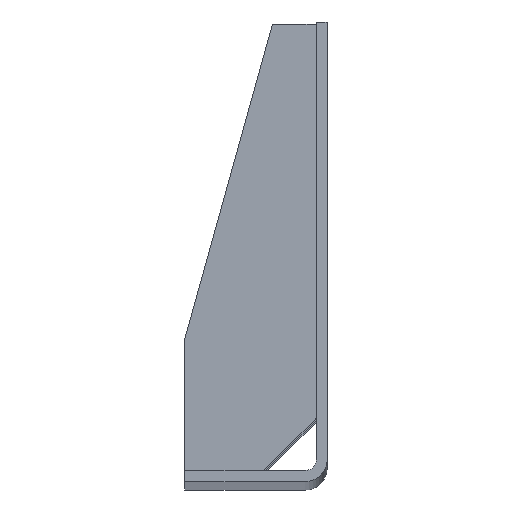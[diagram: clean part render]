
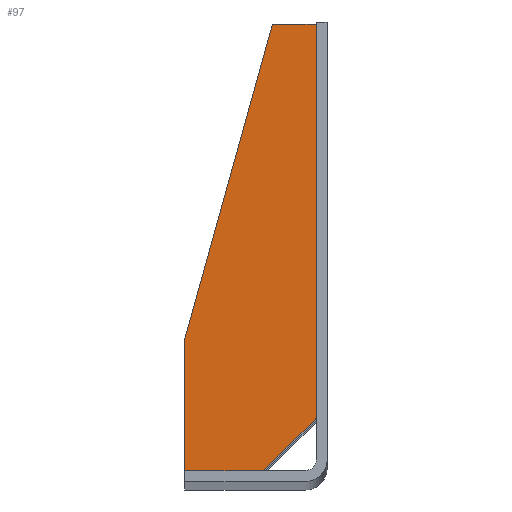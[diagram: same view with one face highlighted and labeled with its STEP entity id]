
A CAD part, top view. The second image highlights one B-rep face of the part: STEP entity #97.
In plain terms, the highlighted planar face has unit normal (0, 0, 1).
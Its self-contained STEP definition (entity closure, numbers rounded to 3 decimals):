
#97=ADVANCED_FACE('',(#163),#129,.F.);
#129=PLANE('',#674);
#163=FACE_OUTER_BOUND('',#197,.T.);
#197=EDGE_LOOP('',(#329,#330,#331,#332,#333,#334));
#329=ORIENTED_EDGE('',*,*,#477,.F.);
#330=ORIENTED_EDGE('',*,*,#478,.T.);
#331=ORIENTED_EDGE('',*,*,#479,.F.);
#332=ORIENTED_EDGE('',*,*,#480,.F.);
#333=ORIENTED_EDGE('',*,*,#481,.T.);
#334=ORIENTED_EDGE('',*,*,#482,.F.);
#405=VERTEX_POINT('',#962);
#406=VERTEX_POINT('',#963);
#407=VERTEX_POINT('',#965);
#408=VERTEX_POINT('',#967);
#409=VERTEX_POINT('',#969);
#410=VERTEX_POINT('',#971);
#477=EDGE_CURVE('',#405,#406,#551,.T.);
#478=EDGE_CURVE('',#405,#407,#552,.T.);
#479=EDGE_CURVE('',#408,#407,#553,.T.);
#480=EDGE_CURVE('',#409,#408,#554,.T.);
#481=EDGE_CURVE('',#409,#410,#555,.T.);
#482=EDGE_CURVE('',#406,#410,#556,.T.);
#551=LINE('',#961,#625);
#552=LINE('',#964,#626);
#553=LINE('',#966,#627);
#554=LINE('',#968,#628);
#555=LINE('',#970,#629);
#556=LINE('',#972,#630);
#625=VECTOR('',#800,1.);
#626=VECTOR('',#801,1.);
#627=VECTOR('',#802,1.);
#628=VECTOR('',#803,1.);
#629=VECTOR('',#804,1.);
#630=VECTOR('',#805,1.);
#674=AXIS2_PLACEMENT_3D('',#973,#806,#807);
#800=DIRECTION('',(-1.,0.,0.));
#801=DIRECTION('',(0.707,0.707,0.));
#802=DIRECTION('',(0.,-1.,0.));
#803=DIRECTION('',(1.,-0.002,0.));
#804=DIRECTION('',(-0.268,-0.963,0.));
#805=DIRECTION('',(0.,1.,0.));
#806=DIRECTION('',(0.,0.,-1.));
#807=DIRECTION('',(-1.,0.,0.));
#961=CARTESIAN_POINT('',(-205.,2449.991,1557.5));
#962=CARTESIAN_POINT('',(-225.,2449.991,1557.5));
#963=CARTESIAN_POINT('',(-260.,2449.991,1557.5));
#964=CARTESIAN_POINT('',(-220.,2454.991,1557.5));
#965=CARTESIAN_POINT('',(-200.,2474.991,1557.5));
#966=CARTESIAN_POINT('',(-200.,2654.991,1557.5));
#967=CARTESIAN_POINT('',(-200.,2654.979,1557.5));
#968=CARTESIAN_POINT('',(-209.,2655.001,1557.5));
#969=CARTESIAN_POINT('',(-220.,2655.027,1557.5));
#970=CARTESIAN_POINT('',(-220.,2655.027,1557.5));
#971=CARTESIAN_POINT('',(-260.,2511.125,1557.5));
#972=CARTESIAN_POINT('',(-260.,2454.991,1557.5));
#973=CARTESIAN_POINT('',(-6.,330.98,1557.5));
